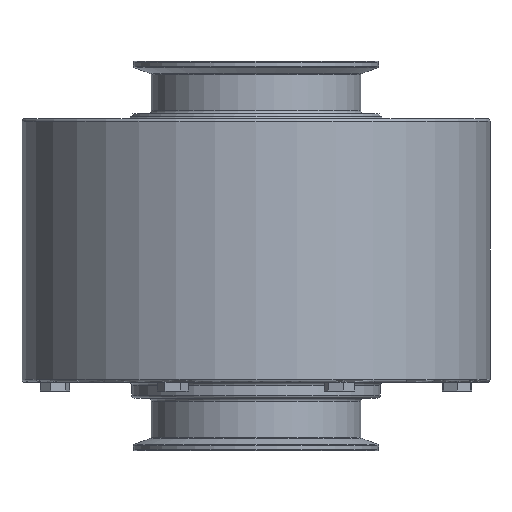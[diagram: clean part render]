
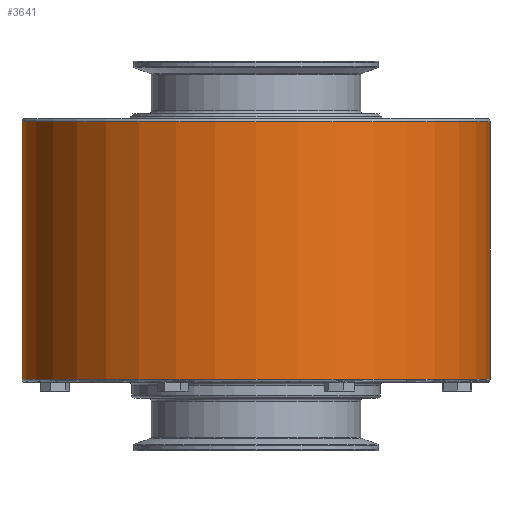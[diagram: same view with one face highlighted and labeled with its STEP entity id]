
A CAD part, front view. The second image highlights one B-rep face of the part: STEP entity #3641.
In plain terms, the highlighted cylindrical face has radius 113.513 mm (diameter 227.025 mm), a partial arc.
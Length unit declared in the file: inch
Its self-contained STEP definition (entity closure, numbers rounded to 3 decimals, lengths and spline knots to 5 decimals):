
#343 = VERTEX_POINT ( 'NONE', #4382 ) ;
#397 = EDGE_LOOP ( 'NONE', ( #830, #831, #832, #833 ) ) ;
#648 = VERTEX_POINT ( 'NONE', #4412 ) ;
#649 = VERTEX_POINT ( 'NONE', #4418 ) ;
#672 = VERTEX_POINT ( 'NONE', #4465 ) ;
#830 = ORIENTED_EDGE ( 'NONE', *, *, #3910, .F. ) ;
#831 = ORIENTED_EDGE ( 'NONE', *, *, #4002, .T. ) ;
#832 = ORIENTED_EDGE ( 'NONE', *, *, #3911, .T. ) ;
#833 = ORIENTED_EDGE ( 'NONE', *, *, #4003, .T. ) ;
#1987 = LINE ( 'NONE', #1988, #2599 ) ;
#1988 = CARTESIAN_POINT ( 'NONE',  ( -4.469, 0., 0.93979 ) ) ;
#1989 = DIRECTION ( 'NONE',  ( 0., 0., 1. ) ) ;
#1990 = LINE ( 'NONE', #1992, #2600 ) ;
#1992 = CARTESIAN_POINT ( 'NONE',  ( 4.469, 0., 0.93979 ) ) ;
#1993 = DIRECTION ( 'NONE',  ( 0., 0., 1. ) ) ;
#2599 = VECTOR ( 'NONE', #1989, 39.37008 ) ;
#2600 = VECTOR ( 'NONE', #1993, 39.37008 ) ;
#2720 = CIRCLE ( 'NONE', #2723, 4.469 ) ;
#2722 = CIRCLE ( 'NONE', #2725, 4.469 ) ;
#2723 = AXIS2_PLACEMENT_3D ( 'NONE', #5466, #5467, #5468 ) ;
#2725 = AXIS2_PLACEMENT_3D ( 'NONE', #5469, #5470, #5471 ) ;
#2827 = CARTESIAN_POINT ( 'NONE',  ( 0., 0., 0.93979 ) ) ;
#2833 = FACE_OUTER_BOUND ( 'NONE', #397, .T. ) ;
#2834 = CYLINDRICAL_SURFACE ( 'NONE', #5209, 4.469 ) ;
#2835 = DIRECTION ( 'NONE',  ( 0., 0., 1. ) ) ;
#2839 = DIRECTION ( 'NONE',  ( 1., 0., 0. ) ) ;
#3641 = ADVANCED_FACE ( 'NONE', ( #2833 ), #2834, .T. ) ;
#3910 = EDGE_CURVE ( 'NONE', #672, #343, #1987, .T. ) ;
#3911 = EDGE_CURVE ( 'NONE', #648, #649, #1990, .T. ) ;
#4002 = EDGE_CURVE ( 'NONE', #672, #648, #2720, .T. ) ;
#4003 = EDGE_CURVE ( 'NONE', #649, #343, #2722, .T. ) ;
#4382 = CARTESIAN_POINT ( 'NONE',  ( -4.469, 0., -1.15 ) ) ;
#4412 = CARTESIAN_POINT ( 'NONE',  ( 4.469, 0., -6.07 ) ) ;
#4418 = CARTESIAN_POINT ( 'NONE',  ( 4.469, 0., -1.15 ) ) ;
#4465 = CARTESIAN_POINT ( 'NONE',  ( -4.469, 0., -6.07 ) ) ;
#5209 = AXIS2_PLACEMENT_3D ( 'NONE', #2827, #2835, #2839 ) ;
#5466 = CARTESIAN_POINT ( 'NONE',  ( 0., 0., -6.07 ) ) ;
#5467 = DIRECTION ( 'NONE',  ( 0., 0., 1. ) ) ;
#5468 = DIRECTION ( 'NONE',  ( 1., 0., 0. ) ) ;
#5469 = CARTESIAN_POINT ( 'NONE',  ( 0., 0., -1.15 ) ) ;
#5470 = DIRECTION ( 'NONE',  ( 0., 0., -1. ) ) ;
#5471 = DIRECTION ( 'NONE',  ( -1., 0., 0. ) ) ;
